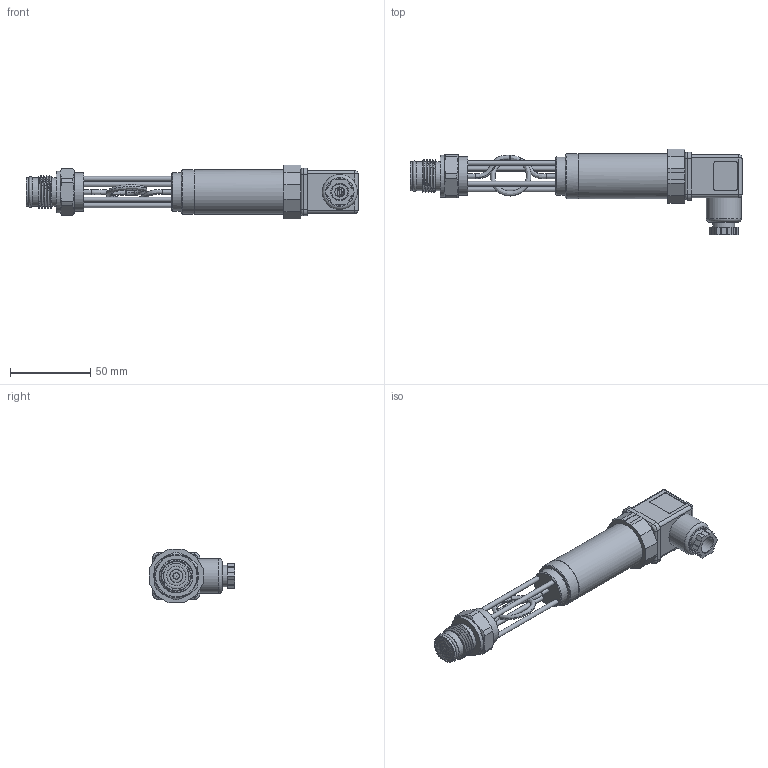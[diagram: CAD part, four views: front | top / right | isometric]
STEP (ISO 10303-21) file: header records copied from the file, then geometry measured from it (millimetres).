
FILE_DESCRIPTION(/* description */ (''),/* implementation_level */ '2;1');
FILE_NAME(/* name */ 'I:/WINWORD/SUPPLIERS/Ellison Sensors/STEP models/P600HT v1.step',/* time_stamp */ '2019-07-30T13:01:52+01:00',/* author */ (''),/* organization */ (''),/* preprocessor_version */ 'ST-DEVELOPER v18',/* originating_system */ 'Autodesk Translation Framework v8.2.0.1029',/* authorisation */ '');
FILE_SCHEMA (('AUTOMOTIVE_DESIGN { 1 0 10303 214 3 1 1 }'));
Length unit declared in the file: millimetre
Products named in the file (4): P600HT; Connector; Transducer; O-Ring
Assembly tree (3 placements, depth 2):
  P600HT
    Connector
    Transducer
    O-Ring
Bounding box: 207.3 x 53.21 x 33.5 mm (x, y, z)
Volume: 87439.4 mm3; surface area: 35532.9 mm2
Topology: 3 solids, 3 shells, 1149 faces, 3199 edges, 2082 vertices
Faces by surface type: plane 755, cylinder 254, bspline 59, cone 54, torus 23, sphere 4
Full cylindrical faces by diameter (mm): 1.65 x4, 2.2 x4, 2.6 x1, 3 x20, 3.2 x1, 4 x4, 4.5 x1, 5.2 x1, 6.3 x2, 6.9 x1, 7.8 x1, 9.9 x1, 10 x1, 10.5 x1, 13.2 x1, 13.6 x1, 13.86 x1, 15.2 x1, 15.4 x2, 16 x1, 18 x3, 20.955 x3, 21.8 x1, 22 x1, 24 x2, 26 x1, 28 x2
Entity records: 48544 total; most frequent: CARTESIAN_POINT 17607, ORIENTED_EDGE 6388, DIRECTION 6025, EDGE_CURVE 3194, LINE 2193, VECTOR 2193, VERTEX_POINT 2082, AXIS2_PLACEMENT_3D 1916
